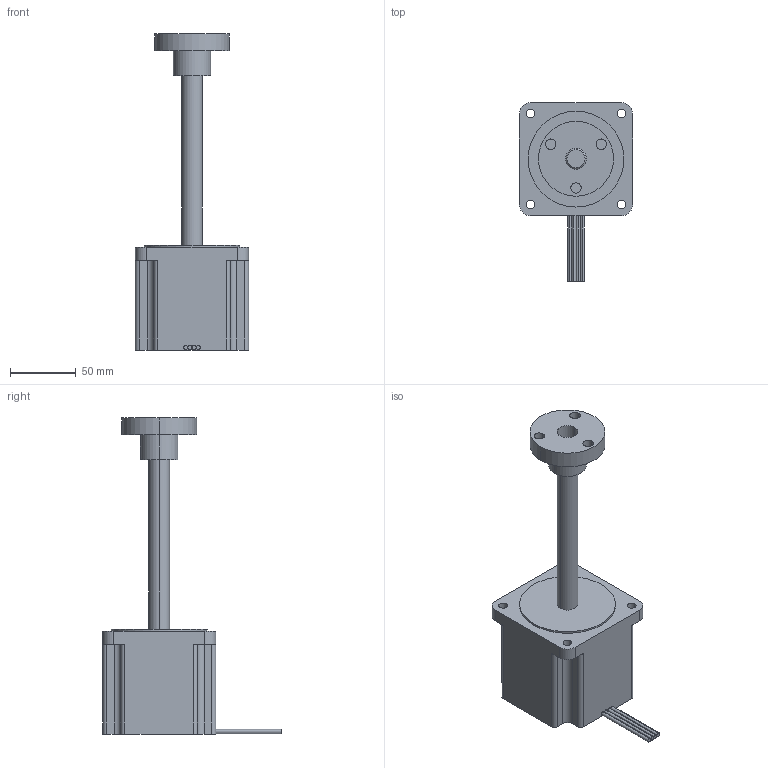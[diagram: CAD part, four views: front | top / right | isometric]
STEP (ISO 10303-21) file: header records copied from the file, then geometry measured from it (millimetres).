
FILE_DESCRIPTION (( 'STEP AP214' ), '1' );
FILE_NAME ('AMETEK-E87H43-2.85-6-12.step', '2019-04-12T08:24:36', ( '' ), ( '' ), 'SwSTEP 2.0', 'SolidWorks 2019', '' );
FILE_SCHEMA (( 'AUTOMOTIVE_DESIGN' ));
Length unit declared in the file: inch
Products named in the file (3): AMETEK-E87H43-2.85-6-12_87000_External_Linear_Nut; AMETEK-E87H43-2.85-6-12; AMETEK-E87H43-2.85-6-12_87000_External_Linear_None
Assembly tree (2 placements, depth 2):
  AMETEK-E87H43-2.85-6-12
    AMETEK-E87H43-2.85-6-12_87000_External_Linear_None
    AMETEK-E87H43-2.85-6-12_87000_External_Linear_Nut
Bounding box: 86.31 x 136.31 x 241.12 mm (x, y, z)
Volume: 588361.9 mm3; surface area: 65806.5 mm2
Topology: 2 solids, 2 shells, 83 faces, 208 edges, 138 vertices
Faces by surface type: cylinder 52, plane 29, cone 2
Entity records: 3026 total; most frequent: DIRECTION 490, CARTESIAN_POINT 434, ORIENTED_EDGE 416, EDGE_CURVE 208, AXIS2_PLACEMENT_3D 194, VERTEX_POINT 138, EDGE_LOOP 108, CIRCLE 106
